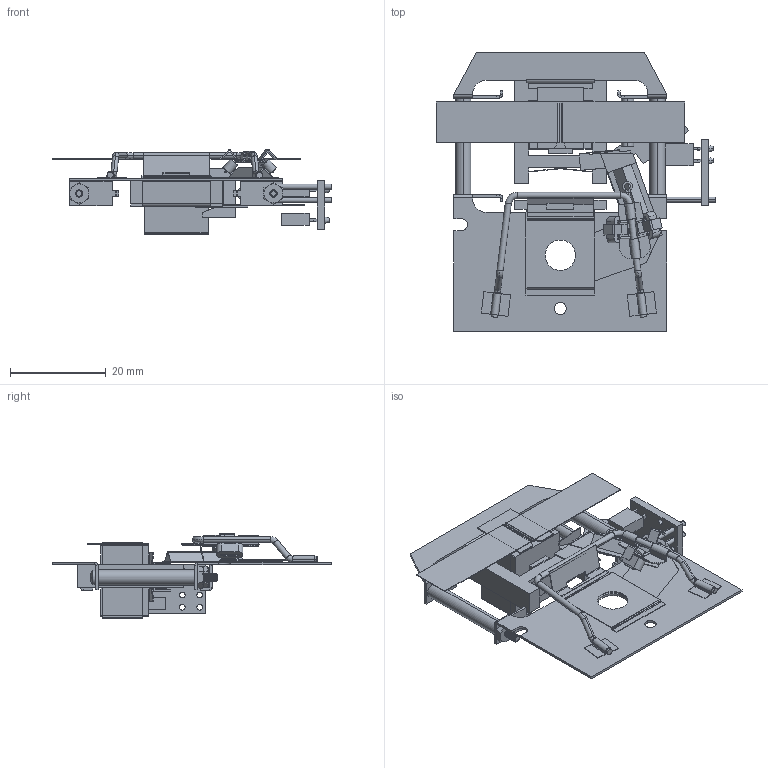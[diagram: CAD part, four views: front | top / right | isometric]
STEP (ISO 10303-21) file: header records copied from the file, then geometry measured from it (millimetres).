
FILE_DESCRIPTION (( 'STEP AP214' ), '1' );
FILE_NAME ('NO XRS6 3D Model Un-Housed.STEP', '2013-12-30T18:00:06', ( 'helen' ), ( 'Microsoft' ), 'SwSTEP 2.0', 'SolidWorks 2010', '' );
FILE_SCHEMA (( 'AUTOMOTIVE_DESIGN' ));
Length unit declared in the file: inch
Products named in the file (1): NO XRS6 3D Model Un-Housed
Bounding box: 58.34 x 58.14 x 17.63 mm (x, y, z)
Volume: 5013.3 mm3; surface area: 12345.7 mm2
Topology: 24 solids, 24 shells, 1814 faces, 4584 edges, 2830 vertices
Faces by surface type: cone 680, plane 552, cylinder 522, torus 54, sphere 4, bspline 2
Entity records: 78722 total; most frequent: DIRECTION 10367, CARTESIAN_POINT 9501, ORIENTED_EDGE 9160, EDGE_CURVE 4580, AXIS2_PLACEMENT_3D 4030, VERTEX_POINT 2830, VECTOR 2307, LINE 2307
